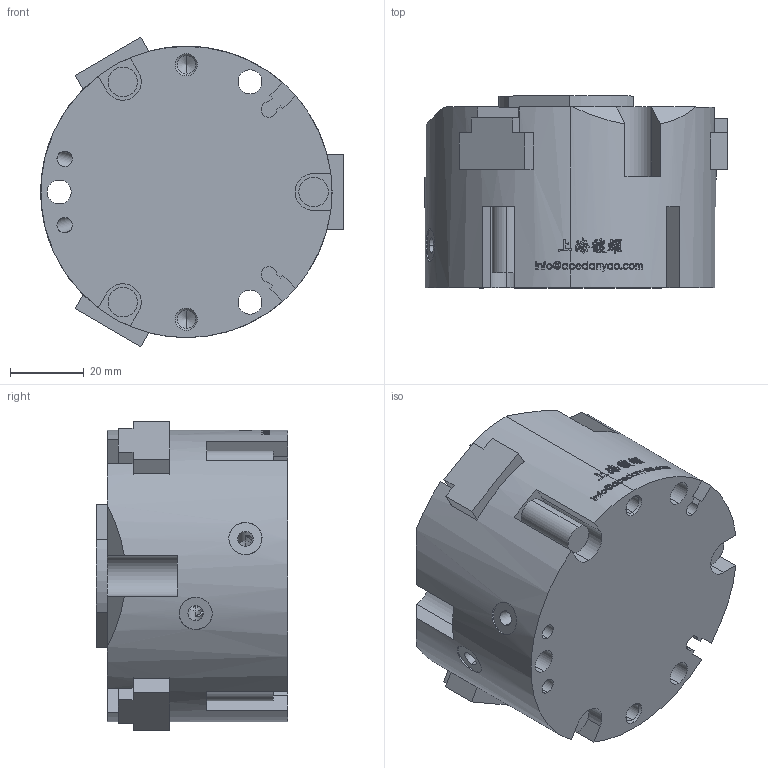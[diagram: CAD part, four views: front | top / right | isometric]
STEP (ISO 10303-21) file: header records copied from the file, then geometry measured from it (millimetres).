
FILE_DESCRIPTION (( 'STEP AP203' ), '1' );
FILE_NAME ('MAC3-80-C1-原始檔-組合-W106.04.14.STEP', '2017-04-14T00:44:15', ( 'DanyaoCAD' ), ( '' ), 'SwSTEP 2.0', 'SolidWorks 2016', '' );
FILE_SCHEMA (( 'CONFIG_CONTROL_DESIGN' ));
Length unit declared in the file: millimetre
Products named in the file (4): Coperchio; MAC3-80-C1-原始檔-組合-W106.04.14; Griffa; Corpo
Assembly tree (5 placements, depth 2):
  MAC3-80-C1-原始檔-組合-W106.04.14
    Griffa  x3
    Corpo
    Coperchio
Bounding box: 81.96 x 52 x 83.91 mm (x, y, z)
Volume: 219002.7 mm3; surface area: 47397.1 mm2
Topology: 5 solids, 5 shells, 1078 faces, 2991 edges, 1964 vertices
Faces by surface type: bspline 665, plane 226, cylinder 142, cone 45
Entity records: 72476 total; most frequent: CARTESIAN_POINT 51823, ORIENTED_EDGE 5622, EDGE_CURVE 2811, B_SPLINE_CURVE_WITH_KNOTS 2043, VERTEX_POINT 1864, DIRECTION 1760, EDGE_LOOP 1091, ADVANCED_FACE 1014
